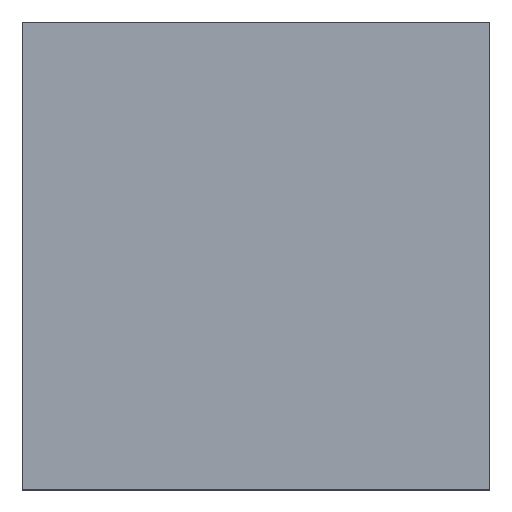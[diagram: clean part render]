
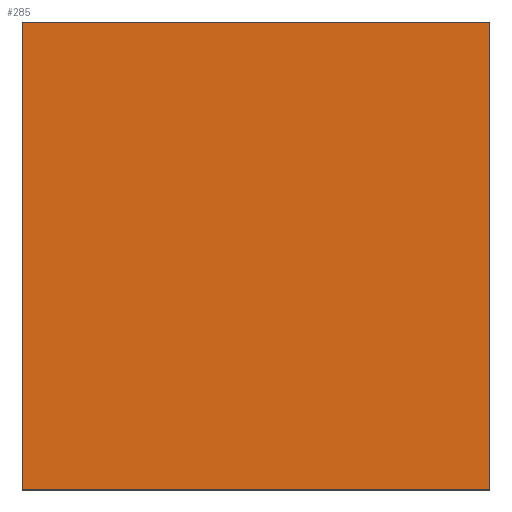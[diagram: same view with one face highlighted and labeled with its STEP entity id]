
A CAD part, top view. The second image highlights one B-rep face of the part: STEP entity #285.
In plain terms, the highlighted planar face has unit normal (0, 0, 1).
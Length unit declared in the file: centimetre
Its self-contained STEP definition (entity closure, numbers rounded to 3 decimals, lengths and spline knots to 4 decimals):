
#10 = DIRECTION ( 'NONE',  ( -1., 0., 0. ) ) ;
#15 = LINE ( 'NONE', #166, #479 ) ;
#29 = CARTESIAN_POINT ( 'NONE',  ( 1000., 0., 1000. ) ) ;
#30 = VECTOR ( 'NONE', #10, 100. ) ;
#63 = CARTESIAN_POINT ( 'NONE',  ( 1000., 1000., 1000. ) ) ;
#70 = CARTESIAN_POINT ( 'NONE',  ( 0., 1000., 1000. ) ) ;
#85 = VERTEX_POINT ( 'NONE', #377 ) ;
#91 = ORIENTED_EDGE ( 'NONE', *, *, #436, .T. ) ;
#128 = DIRECTION ( 'NONE',  ( 0., 1., 0. ) ) ;
#132 = PLANE ( 'NONE',  #204 ) ;
#136 = EDGE_CURVE ( 'NONE', #379, #85, #418, .T. ) ;
#166 = CARTESIAN_POINT ( 'NONE',  ( 1000., 1000., 1000. ) ) ;
#204 = AXIS2_PLACEMENT_3D ( 'NONE', #295, #446, #252 ) ;
#227 = CARTESIAN_POINT ( 'NONE',  ( 0., 1000., 1000. ) ) ;
#238 = LINE ( 'NONE', #440, #30 ) ;
#242 = VECTOR ( 'NONE', #392, 100. ) ;
#252 = DIRECTION ( 'NONE',  ( 1., 0., 0. ) ) ;
#260 = DIRECTION ( 'NONE',  ( 1., 0., 0. ) ) ;
#285 = ADVANCED_FACE ( 'NONE', ( #410 ), #132, .T. ) ;
#295 = CARTESIAN_POINT ( 'NONE',  ( 0., 0., 1000. ) ) ;
#307 = VERTEX_POINT ( 'NONE', #29 ) ;
#321 = VERTEX_POINT ( 'NONE', #63 ) ;
#338 = CARTESIAN_POINT ( 'NONE',  ( 0., 0., 1000. ) ) ;
#340 = ORIENTED_EDGE ( 'NONE', *, *, #136, .T. ) ;
#358 = VECTOR ( 'NONE', #260, 100. ) ;
#369 = ORIENTED_EDGE ( 'NONE', *, *, #393, .T. ) ;
#377 = CARTESIAN_POINT ( 'NONE',  ( 0., 0., 1000. ) ) ;
#379 = VERTEX_POINT ( 'NONE', #70 ) ;
#392 = DIRECTION ( 'NONE',  ( 0., -1., 0. ) ) ;
#393 = EDGE_CURVE ( 'NONE', #321, #379, #238, .T. ) ;
#410 = FACE_OUTER_BOUND ( 'NONE', #445, .T. ) ;
#418 = LINE ( 'NONE', #227, #242 ) ;
#419 = LINE ( 'NONE', #338, #358 ) ;
#436 = EDGE_CURVE ( 'NONE', #307, #321, #15, .T. ) ;
#440 = CARTESIAN_POINT ( 'NONE',  ( 0., 1000., 1000. ) ) ;
#445 = EDGE_LOOP ( 'NONE', ( #340, #466, #91, #369 ) ) ;
#446 = DIRECTION ( 'NONE',  ( 0., 0., 1. ) ) ;
#466 = ORIENTED_EDGE ( 'NONE', *, *, #492, .T. ) ;
#479 = VECTOR ( 'NONE', #128, 100. ) ;
#492 = EDGE_CURVE ( 'NONE', #85, #307, #419, .T. ) ;
